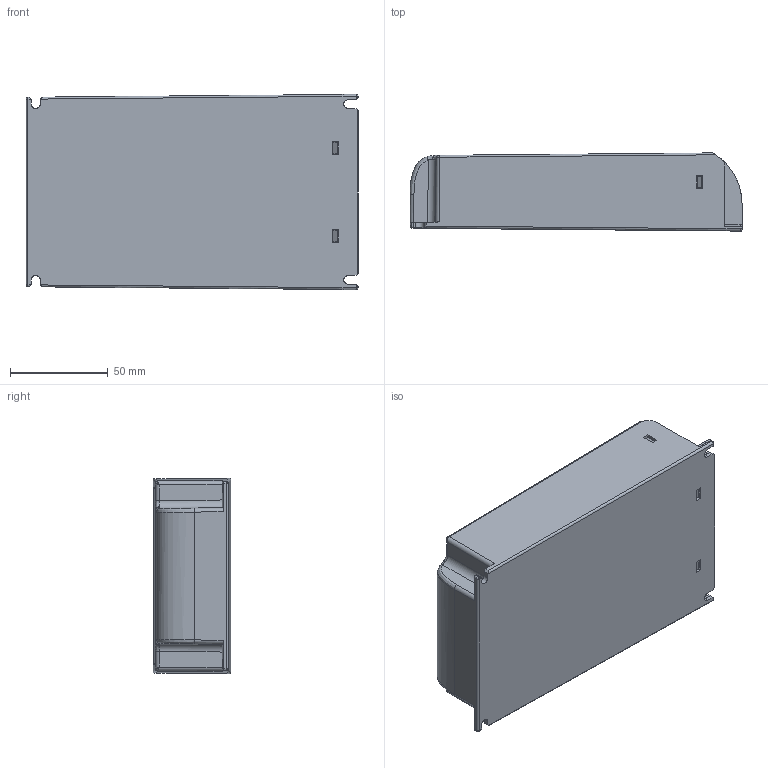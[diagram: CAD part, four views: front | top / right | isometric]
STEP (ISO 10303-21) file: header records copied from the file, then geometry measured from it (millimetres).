
FILE_DESCRIPTION((''),'2;1');
FILE_NAME('3D_EUCI-170105GLB1_ASM','2023-07-03T15:03:02',('ALBERT.LI'),(''),'CREO PARAMETRIC BY PTC INC, 2020454','CREO PARAMETRIC BY PTC INC, 2020454','');
FILE_SCHEMA(('CONFIG_CONTROL_DESIGN'));
Length unit declared in the file: millimetre
Products named in the file (11): HOUSING_150X90X40_55; PCB_130W_32; S-PWB_3; 307348291G_2; CN1; CN3; ASSY_PCB_130W_ASM_15_ASM; COVER_150X90X40_63; LABEL_2; ASSY_150X90X40_ASM_19_ASM; 3D_EUCI-170105GLB1_ASM
Assembly tree (10 placements, depth 4):
  3D_EUCI-170105GLB1_ASM
    ASSY_150X90X40_ASM_19_ASM
      HOUSING_150X90X40_55
      ASSY_PCB_130W_ASM_15_ASM
        PCB_130W_32
        S-PWB_3
        307348291G_2
        CN1
        CN3
      COVER_150X90X40_63
      LABEL_2
Bounding box: 170 x 39.87 x 99.98 mm (x, y, z)
Volume: 128074.4 mm3; surface area: 162423.7 mm2
Topology: 8 solids, 8 shells, 852 faces, 2382 edges, 1575 vertices
Faces by surface type: plane 645, cylinder 173, cone 20, bspline 8, sphere 4, extrusion 2
Entity records: 28573 total; most frequent: CARTESIAN_POINT 6619, ORIENTED_EDGE 4756, DIRECTION 4139, EDGE_CURVE 2378, VECTOR 1909, LINE 1907, VERTEX_POINT 1575, AXIS2_PLACEMENT_3D 1115
